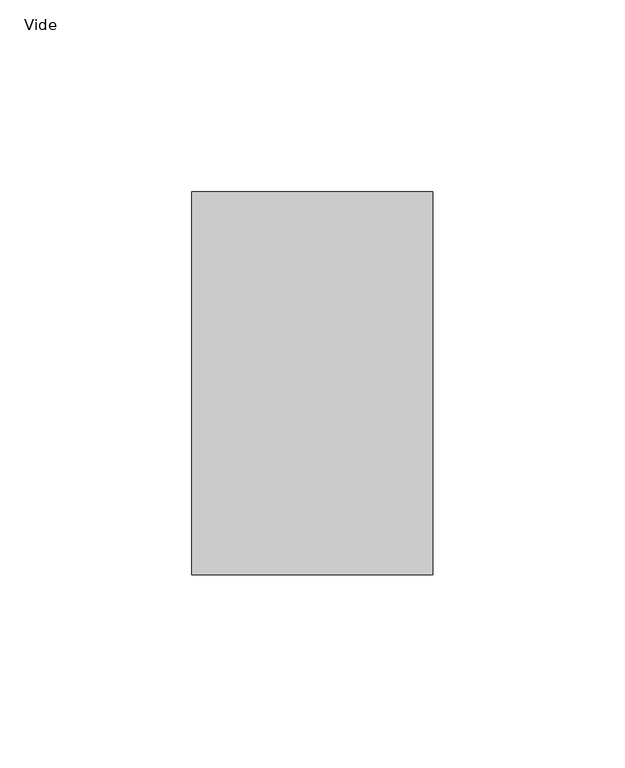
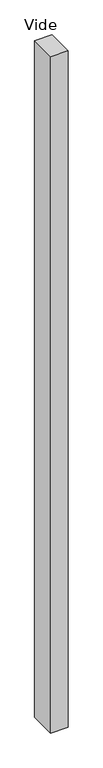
"""IFC4 building model written with IfcOpenShell, lengths in millimetres: plate geometry, Panneau système vide : Vide."""

import ifcopenshell
import ifcopenshell.guid

model = None  # the IFC model being written
_history = None  # IfcOwnerHistory: only IFC2X3 demands one
_inside = {}  # id of a spatial element -> (the spatial element, [elements in it])
_under = {}  # id of a project, library or spatial element -> (it, [spatial elements below it])
_declared = {}  # id of a project -> (the project, [libraries it declares])
_typed = {}  # id of a type object -> (the type object, [elements of that type])
_made_of = {}  # id of a material, layer set ... -> (it, [elements and type objects made of it])


def new_model(schema):
    """Start an empty IFC model of exactly this schema.

    Asked for "IFC4X3", IfcOpenShell would pick the latest addendum, in which some entities
    have other attributes; the version numbers below select the first issue.
    IFC2X3 requires an IfcOwnerHistory on every rooted entity: one is made here for all.
    """
    global model, _history
    if schema == "IFC4X3":
        model = ifcopenshell.file(schema_version=(4, 3, 0, 0))
    else:
        model = ifcopenshell.file(schema=schema)
    _inside.clear()
    _under.clear()
    _declared.clear()
    _typed.clear()
    _made_of.clear()
    _history = None
    if model.schema == "IFC2X3":
        org = make("IfcOrganization", Name="unknown")
        user = make(
            "IfcPersonAndOrganization",
            ThePerson=make("IfcPerson", FamilyName="unknown"),
            TheOrganization=org,
        )
        app = make(
            "IfcApplication",
            ApplicationDeveloper=org,
            Version="unknown",
            ApplicationFullName="unknown",
            ApplicationIdentifier="unknown",
        )
        _history = make(
            "IfcOwnerHistory",
            OwningUser=user,
            OwningApplication=app,
            ChangeAction="ADDED",
            CreationDate=0,
        )
    return model


def make(cls, **values):
    """One entity of the class cls with the attributes given. An attribute that is None is left unset."""
    return model.create_entity(
        cls, **{name: value for name, value in values.items() if value is not None}
    )


def rooted(cls, **values):
    """An entity with a GlobalId (a new one), such as an element, a storey or a relation."""
    return make(cls, GlobalId=ifcopenshell.guid.new(), OwnerHistory=_history, **values)


def si_unit(unit_type, name, prefix=None):
    """IfcSIUnit, for example si_unit("LENGTHUNIT", "METRE", prefix="MILLI")."""
    return make("IfcSIUnit", UnitType=unit_type, Prefix=prefix, Name=name)


def assignment(units):
    """IfcUnitAssignment: the units of a project."""
    return None if units is None else make("IfcUnitAssignment", Units=units)


def point(xyz):
    """IfcCartesianPoint."""
    return None if xyz is None else make("IfcCartesianPoint", Coordinates=xyz)


def direction(xyz):
    """IfcDirection."""
    return None if xyz is None else make("IfcDirection", DirectionRatios=xyz)


def frame(location, z_axis=None, x_axis=None):
    """IfcAxis2Placement3D, a coordinate frame: its origin and axes. An axis left out is left unset."""
    return make(
        "IfcAxis2Placement3D",
        Location=point(location),
        Axis=direction(z_axis),
        RefDirection=direction(x_axis),
    )


def origin():
    """The frame at (0, 0, 0) with its axes left unset."""
    return frame((0.0, 0.0, 0.0))


def origin_with_axes():
    """The frame at (0, 0, 0) with the z axis (0, 0, 1) and the x axis (1, 0, 0) written out."""
    return frame((0.0, 0.0, 0.0), z_axis=(0.0, 0.0, 1.0), x_axis=(1.0, 0.0, 0.0))


def place(relative_to, where):
    """IfcLocalPlacement: puts the frame where relative to a parent placement (None: the world)."""
    return make(
        "IfcLocalPlacement", PlacementRelTo=relative_to, RelativePlacement=where
    )


def context(
    kind, dimensions, precision=None, world=None, true_north=None, identifier=None
):
    """IfcGeometricRepresentationContext, for example the 3D "Model" context."""
    return make(
        "IfcGeometricRepresentationContext",
        ContextIdentifier=identifier,
        ContextType=kind,
        CoordinateSpaceDimension=dimensions,
        Precision=precision,
        WorldCoordinateSystem=world,
        TrueNorth=true_north,
    )


def project(units=None, contexts=None):
    """IfcProject with its units and contexts."""
    return rooted(
        "IfcProject",
        Name="project",
        RepresentationContexts=contexts,
        UnitsInContext=assignment(units),
    )


def spatial(cls, under=None, at=None, **own):
    """A site, building, storey or space (cls), placed at a placement, below another one or the project."""
    s = rooted(cls, ObjectPlacement=at, **own)
    if under is not None:
        _under.setdefault(under.id(), (under, []))[1].append(s)
    return s


def polyline(points):
    """IfcPolyline through the points."""
    return make("IfcPolyline", Points=[point(p) for p in points])


def outline(outer, holes=None, kind="AREA"):
    """IfcArbitraryClosedProfileDef: a profile drawn as a closed curve; with holes, ...WithVoids."""
    if holes is None:
        return make("IfcArbitraryClosedProfileDef", ProfileType=kind, OuterCurve=outer)
    return make(
        "IfcArbitraryProfileDefWithVoids",
        ProfileType=kind,
        OuterCurve=outer,
        InnerCurves=holes,
    )


def extrude(swept, where, along, depth):
    """IfcExtrudedAreaSolid: the profile swept, set in the frame where, extruded along a direction by depth."""
    return make(
        "IfcExtrudedAreaSolid",
        SweptArea=swept,
        Position=where,
        ExtrudedDirection=direction(along),
        Depth=depth,
    )


def shape(context_of_items, identifier, shape_type, items):
    """IfcShapeRepresentation: the items that make up one representation, for example the "Body"."""
    return make(
        "IfcShapeRepresentation",
        ContextOfItems=context_of_items,
        RepresentationIdentifier=identifier,
        RepresentationType=shape_type,
        Items=items,
    )


def source(mapping_origin, context_of_items, identifier, shape_type, items):
    """IfcRepresentationMap: a shape defined once, which mapped items show again and again."""
    return make(
        "IfcRepresentationMap",
        MappingOrigin=mapping_origin,
        MappedRepresentation=shape(context_of_items, identifier, shape_type, items),
    )


def transform(
    local_origin,
    x_axis=None,
    y_axis=None,
    z_axis=None,
    scale=None,
    scale2=None,
    scale3=None,
    uniform=True,
):
    """IfcCartesianTransformationOperator3D, or its non-uniform kind. x_axis, y_axis, z_axis: its Axis1, 2, 3."""
    if uniform:
        return make(
            "IfcCartesianTransformationOperator3D",
            Axis1=direction(x_axis),
            Axis2=direction(y_axis),
            LocalOrigin=point(local_origin),
            Scale=scale,
            Axis3=direction(z_axis),
        )
    return make(
        "IfcCartesianTransformationOperator3DnonUniform",
        Axis1=direction(x_axis),
        Axis2=direction(y_axis),
        LocalOrigin=point(local_origin),
        Scale=scale,
        Axis3=direction(z_axis),
        Scale2=scale2,
        Scale3=scale3,
    )


def mapped(mapping_source, mapping_target):
    """IfcMappedItem: shows the shape of a source again, moved by a transform."""
    return make(
        "IfcMappedItem", MappingSource=mapping_source, MappingTarget=mapping_target
    )


def made_of(thing, what):
    """Note that an element or type object is made of a material, layer set ...; save() writes the relation."""
    if what is not None:
        _made_of.setdefault(what.id(), (what, []))[1].append(thing)
    return thing


def element(
    cls,
    number,
    at=None,
    inside=None,
    cuts=None,
    type_object=None,
    material=None,
    context=None,
    identifier="Body",
    shape_type=None,
    held_by="IfcProductDefinitionShape",
    body=None,
    shapes=None,
    **own,
):
    """One element of the class cls, such as IfcWall. Its Tag is "e" and its number.

    at: its placement. inside: the storey or other place that contains it. cuts: it is an
    opening in that element (IfcRelVoidsElement). A single representation is given by context,
    identifier, shape_type and body (its items); several are given by shapes. held_by: the class
    of the entity that holds the representations. save() writes the other relations.
    """
    e = rooted(cls, Tag="e%d" % number, ObjectPlacement=at, **own)
    if body is not None:
        shapes = [shape(context, identifier, shape_type, body)]
    if shapes is not None:
        e.Representation = make(held_by, Representations=shapes)
    if inside is not None:
        _inside.setdefault(inside.id(), (inside, []))[1].append(e)
    if cuts is not None:
        rooted(
            "IfcRelVoidsElement", RelatingBuildingElement=cuts, RelatedOpeningElement=e
        )
    if type_object is not None:
        _typed.setdefault(type_object.id(), (type_object, []))[1].append(e)
    return made_of(e, material)


def aggregate(whole, parts):
    """IfcRelAggregates: a whole, such as a stair, and the parts it consists of."""
    return rooted("IfcRelAggregates", RelatingObject=whole, RelatedObjects=parts)


def save(model, path):
    """Write the relations noted so far, then the file.

    IfcRelAggregates (storeys below a building ...), IfcRelContainedInSpatialStructure (elements
    in a storey), IfcRelDefinesByType, IfcRelAssociatesMaterial and IfcRelDeclares: one each for
    every whole, place, type object, material and project.
    """
    for whole, parts in _under.values():
        aggregate(whole, parts)
    for where, things in _inside.values():
        rooted(
            "IfcRelContainedInSpatialStructure",
            RelatedElements=things,
            RelatingStructure=where,
        )
    for kind, things in _typed.values():
        rooted("IfcRelDefinesByType", RelatedObjects=things, RelatingType=kind)
    for what, things in _made_of.values():
        rooted("IfcRelAssociatesMaterial", RelatedObjects=things, RelatingMaterial=what)
    for by, libraries in _declared.values():
        rooted("IfcRelDeclares", RelatingContext=by, RelatedDefinitions=libraries)
    model.write(path)


def vide_5da8b72d(model_context):
    return source(origin(), model_context, "Body", "SweptSolid", [
        extrude(outline(polyline([(31.4999998, 50.0), (-31.4999998, 50.0), (-31.4999998, 150.0), (31.4999998, 150.0), (31.4999998, 50.0)])), origin_with_axes(), (0.0, 0.0, 1.0), 2588.190451),
    ])


if __name__ == "__main__":
    model = new_model("IFC4")
    model_context = context("Model", 3, world=origin())
    ifc_project = project(units=[si_unit("LENGTHUNIT", "METRE", prefix="MILLI")], contexts=[model_context])
    site = spatial("IfcSite", under=ifc_project)
    building = spatial("IfcBuilding", under=site)
    placement = place(None, origin())
    vide_shape = vide_5da8b72d(model_context)
    element("IfcPlate", 1, ObjectType="Panneau système vide : Vide", at=placement, inside=building, context=model_context, shape_type="MappedRepresentation", body=[
        mapped(vide_shape, transform((0.0, 0.0, 0.0), x_axis=(1.0, 0.0, 0.0), y_axis=(0.0, 1.0, 0.0), z_axis=(0.0, 0.0, 1.0))),
    ])
    save(model, "model.ifc")
